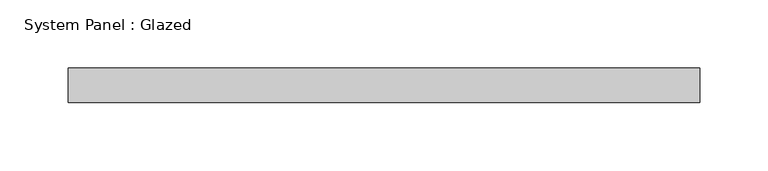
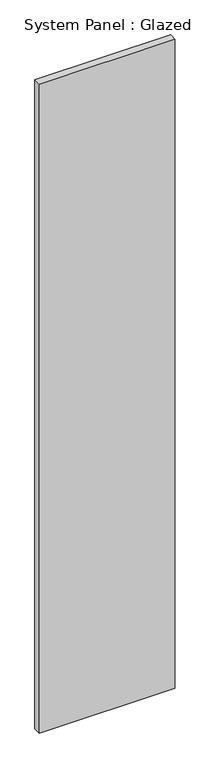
"""IFC4 building model written with IfcOpenShell, lengths in millimetres: plate geometry, System Panel : Glazed."""

from ifc_helpers import new_model, si_unit, origin, origin_with_axes, place, context, project, spatial, polyline, outline, extrude, source, transform, mapped, element, save


def system_panel_glazed_7ef526e5(model_context):
    return source(origin(), model_context, "Body", "SweptSolid", [
        extrude(outline(polyline([(231.775, 19.05), (-231.775, 19.05), (-231.775, 44.45), (231.775, 44.45), (231.775, 19.05)])), origin_with_axes(), (0.0, 0.0, 1.0), 2343.15),
    ])


if __name__ == "__main__":
    model = new_model("IFC4")
    model_context = context("Model", 3, world=origin())
    ifc_project = project(units=[si_unit("LENGTHUNIT", "METRE", prefix="MILLI")], contexts=[model_context])
    site = spatial("IfcSite", under=ifc_project)
    building = spatial("IfcBuilding", under=site)
    placement = place(None, origin())
    system_panel_glazed_shape = system_panel_glazed_7ef526e5(model_context)
    element("IfcPlate", 1, ObjectType="System Panel : Glazed", at=placement, inside=building, context=model_context, shape_type="MappedRepresentation", body=[
        mapped(system_panel_glazed_shape, transform((0.0, 0.0, 0.0), x_axis=(1.0, 0.0, 0.0), y_axis=(0.0, 1.0, 0.0), z_axis=(0.0, 0.0, 1.0))),
    ])
    save(model, "model.ifc")
